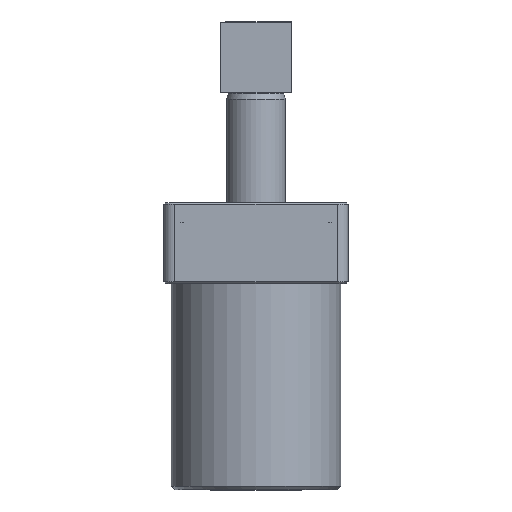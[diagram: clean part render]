
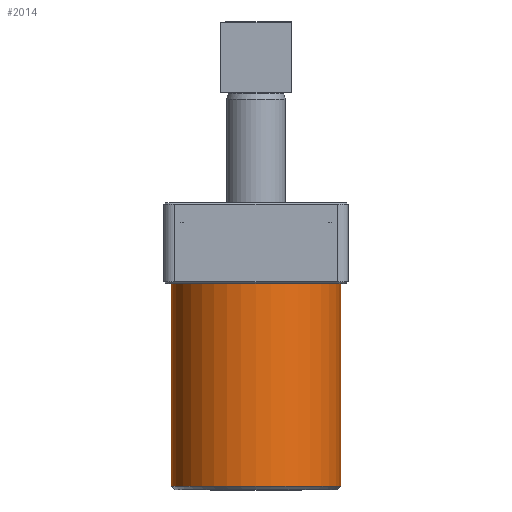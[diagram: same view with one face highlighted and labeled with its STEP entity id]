
A CAD part, left-side view. The second image highlights one B-rep face of the part: STEP entity #2014.
In plain terms, the highlighted cylindrical face has radius 23 mm (diameter 46 mm), a full revolution.
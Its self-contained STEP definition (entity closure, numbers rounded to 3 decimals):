
#250=CYLINDRICAL_SURFACE('',#2158,23.);
#343=ORIENTED_EDGE('',*,*,#746,.T.);
#344=ORIENTED_EDGE('',*,*,#747,.F.);
#746=EDGE_CURVE('',#949,#949,#1086,.T.);
#747=EDGE_CURVE('',#950,#950,#1087,.T.);
#949=VERTEX_POINT('',#2882);
#950=VERTEX_POINT('',#2885);
#1086=CIRCLE('',#2157,23.);
#1087=CIRCLE('',#2159,23.);
#1188=EDGE_LOOP('',(#343));
#1189=EDGE_LOOP('',(#344));
#1366=FACE_BOUND('',#1188,.T.);
#1367=FACE_BOUND('',#1189,.T.);
#2014=ADVANCED_FACE('',(#1366,#1367),#250,.T.);
#2157=AXIS2_PLACEMENT_3D('',#2881,#2378,#2379);
#2158=AXIS2_PLACEMENT_3D('',#2883,#2380,#2381);
#2159=AXIS2_PLACEMENT_3D('',#2884,#2382,#2383);
#2378=DIRECTION('',(0.,0.,1.));
#2379=DIRECTION('',(1.,0.,0.));
#2380=DIRECTION('',(0.,0.,1.));
#2381=DIRECTION('',(0.,-1.,0.));
#2382=DIRECTION('',(0.,0.,1.));
#2383=DIRECTION('',(0.,-1.,0.));
#2881=CARTESIAN_POINT('',(0.,26.5,-62.5));
#2882=CARTESIAN_POINT('',(23.,26.5,-62.5));
#2883=CARTESIAN_POINT('',(0.,26.5,-63.5));
#2884=CARTESIAN_POINT('',(0.,26.5,-7.5));
#2885=CARTESIAN_POINT('',(0.,3.5,-7.5));
